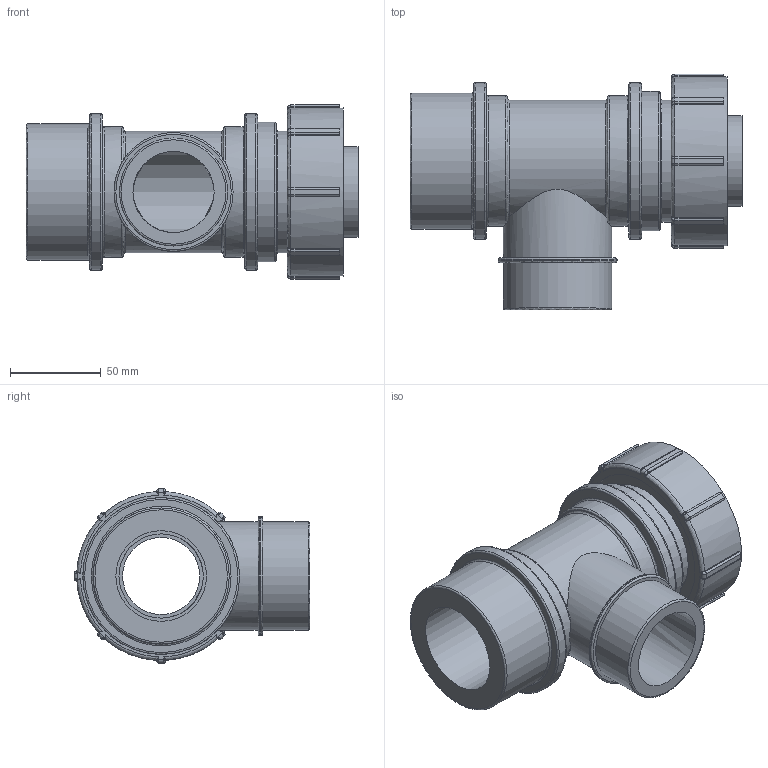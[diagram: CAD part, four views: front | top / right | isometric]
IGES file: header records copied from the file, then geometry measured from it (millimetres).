
Global section: file name: 0784L60500200A.ipt; native system: Autodesk Inventor 2015; preprocessor: unknown; author: KIM; date: 20180409.130818; units: millimetre
Bounding box: 183 x 130 x 96 mm (x, y, z)
Volume: 549096.5 mm3; surface area: 107371.8 mm2
Topology: 1 solids, 1 shells, 166 faces, 428 edges, 277 vertices
Faces by surface type: revolution 63, cylinder 53, plane 50
Full cylindrical faces by diameter (mm): 50 x1, 59.614 x2, 65.575 x1, 67.2 x1, 72 x2, 75 x1, 76.8 x1, 86.4 x2, 93.12 x1
